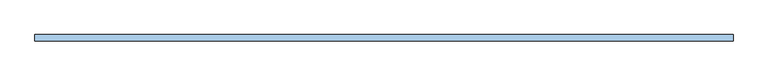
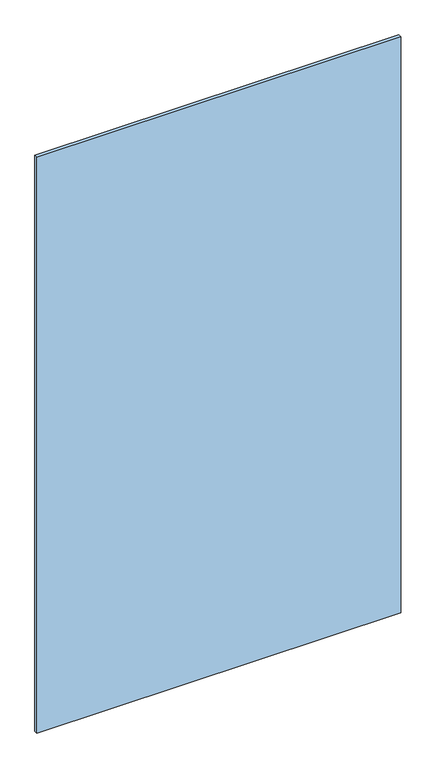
"""IFC4 building model written with IfcOpenShell, lengths in millimetres: window geometry, Baño 1 Fijo simple : CA08b-cancel baño-1 fijo de 1.1955."""

from ifc_helpers import new_model, si_unit, origin, origin_with_axes, place, context, project, spatial, polyline, outline, extrude, source, transform, mapped, element, save


def window_5b8805d6(model_context):
    return source(origin(), model_context, "Body", "SweptSolid", [
        extrude(outline(polyline([(-597.75, -5.5), (-597.75, 5.5), (597.75, 5.5), (597.75, -5.5), (-597.75, -5.5)])), origin_with_axes(), (0.0, 0.0, 1.0), 2000.0),
    ])


if __name__ == "__main__":
    model = new_model("IFC4")
    model_context = context("Model", 3, world=origin())
    ifc_project = project(units=[si_unit("LENGTHUNIT", "METRE", prefix="MILLI")], contexts=[model_context])
    site = spatial("IfcSite", under=ifc_project)
    building = spatial("IfcBuilding", under=site)
    placement = place(None, origin())
    window_shape = window_5b8805d6(model_context)
    element("IfcWindow", 1, ObjectType="Baño 1 Fijo simple : CA08b-cancel baño-1 fijo de 1.1955", at=placement, inside=building, context=model_context, shape_type="MappedRepresentation", body=[
        mapped(window_shape, transform((0.0, 0.0, 0.0), x_axis=(1.0, 0.0, 0.0), y_axis=(0.0, 1.0, 0.0), z_axis=(0.0, 0.0, 1.0))),
    ])
    save(model, "model.ifc")
